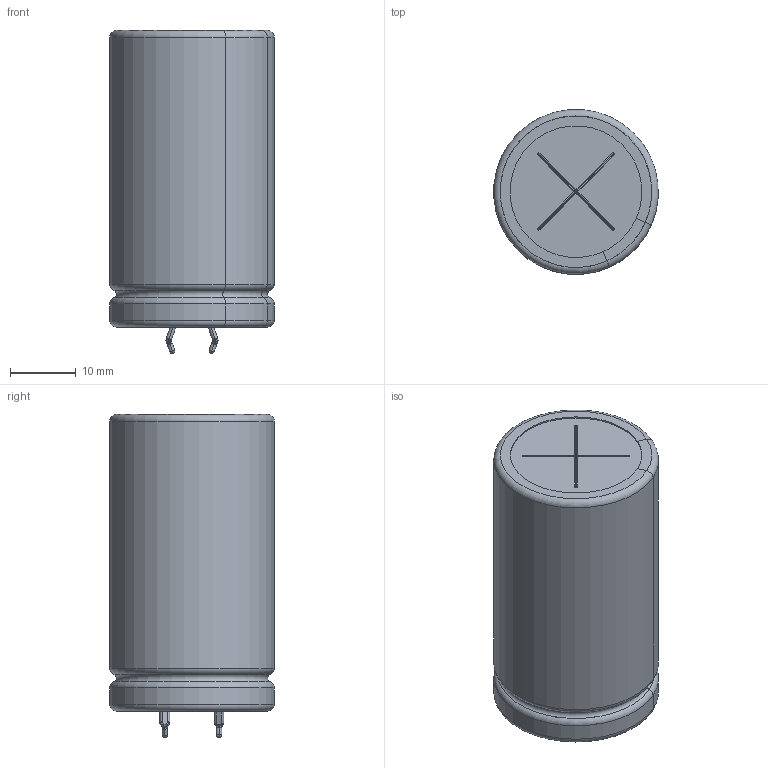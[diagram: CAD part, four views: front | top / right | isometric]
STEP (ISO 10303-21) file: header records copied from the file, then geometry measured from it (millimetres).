
FILE_DESCRIPTION(/* description */ (''),/* implementation_level */ '2;1');
FILE_NAME(/* name */ '25x45_Snap.stp',/* time_stamp */ '2017-09-11T15:01:28+09:00',/* author */ (''),/* organization */ (''),/* preprocessor_version */ 'ST-DEVELOPER v16',/* originating_system */ 'SIEMENS PLM Software NX 11.0',/* authorisation */ '');
FILE_SCHEMA (('AUTOMOTIVE_DESIGN { 1 0 10303 214 3 1 1 1 }'));
Length unit declared in the file: millimetre
Products named in the file (1): 25x45_Snap_0
Bounding box: 24.93 x 24.93 x 49.02 mm (x, y, z)
Volume: 21839.2 mm3; surface area: 12276.7 mm2
Topology: 5 solids, 5 shells, 208 faces, 523 edges, 310 vertices
Faces by surface type: cylinder 76, plane 75, torus 25, sphere 20, bspline 12
Full cylindrical faces by diameter (mm): 4 x2, 24.6 x2
Entity records: 6789 total; most frequent: CARTESIAN_POINT 1265, DIRECTION 1128, ORIENTED_EDGE 988, EDGE_CURVE 494, AXIS2_PLACEMENT_3D 437, VERTEX_POINT 310, LINE 254, VECTOR 254
